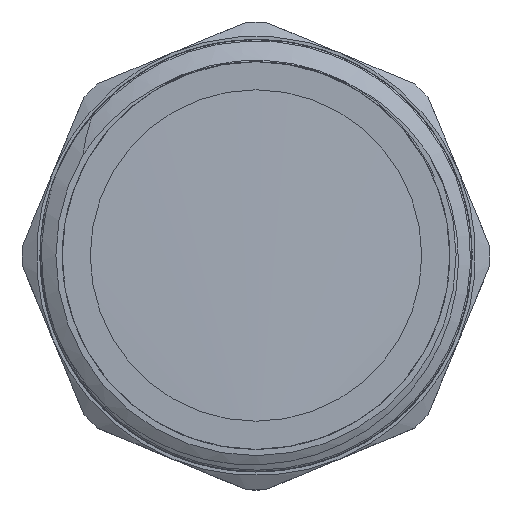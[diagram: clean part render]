
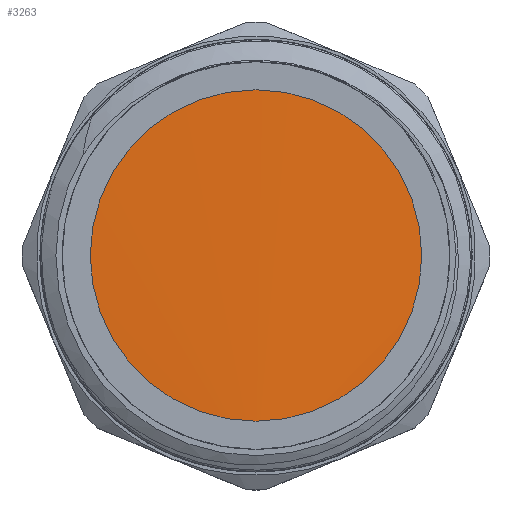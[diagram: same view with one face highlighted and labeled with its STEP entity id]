
A CAD part, top view. The second image highlights one B-rep face of the part: STEP entity #3263.
In plain terms, the highlighted cylindrical face has radius 16.625 mm (diameter 33.25 mm), a full revolution.
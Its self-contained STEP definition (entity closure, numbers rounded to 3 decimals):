
#166=B_SPLINE_CURVE_WITH_KNOTS('',3,(#6835,#6836,#6837,#6838,#6839,#6840,
#6841,#6842,#6843,#6844,#6845,#6846,#6847,#6848,#6849,#6850,#6851),
 .UNSPECIFIED.,.F.,.F.,(4,1,1,1,1,1,1,1,1,1,1,1,1,1,4),(18.85,
19.093,19.583,20.073,20.563,21.053,
21.542,22.032,22.522,23.012,23.502,
23.991,24.481,24.971,25.133),
 .UNSPECIFIED.);
#452=LINE('',#6616,#617);
#457=LINE('',#6834,#622);
#617=VECTOR('',#4327,16.625);
#622=VECTOR('',#4344,16.625);
#661=CYLINDRICAL_SURFACE('',#3587,16.625);
#837=FACE_OUTER_BOUND('',#1044,.T.);
#1044=EDGE_LOOP('',(#2988,#2989,#2990));
#1561=VERTEX_POINT('',#6614);
#1562=VERTEX_POINT('',#6615);
#1570=VERTEX_POINT('',#6833);
#2036=EDGE_CURVE('',#1561,#1562,#452,.T.);
#2049=EDGE_CURVE('',#1570,#1562,#457,.T.);
#2050=EDGE_CURVE('',#1570,#1561,#166,.T.);
#2988=ORIENTED_EDGE('',*,*,#2036,.T.);
#2989=ORIENTED_EDGE('',*,*,#2049,.F.);
#2990=ORIENTED_EDGE('',*,*,#2050,.T.);
#3263=ADVANCED_FACE('',(#837),#661,.T.);
#3587=AXIS2_PLACEMENT_3D('',#6832,#4342,#4343);
#4327=DIRECTION('',(0.,0.,1.));
#4342=DIRECTION('center_axis',(0.,0.,1.));
#4343=DIRECTION('ref_axis',(0.,1.,0.));
#4344=DIRECTION('',(0.,0.,-1.));
#6614=CARTESIAN_POINT('',(0.,-16.625,49.563));
#6615=CARTESIAN_POINT('',(0.,-16.625,51.855));
#6616=CARTESIAN_POINT('',(0.,-16.625,51.15));
#6832=CARTESIAN_POINT('Origin',(0.,0.,51.15));
#6833=CARTESIAN_POINT('',(0.,-16.625,51.874));
#6834=CARTESIAN_POINT('',(0.,-16.625,51.15));
#6835=CARTESIAN_POINT('Ctrl Pts',(0.,-16.624,
51.874));
#6836=CARTESIAN_POINT('Ctrl Pts',(-1.352,-16.624,51.845));
#6837=CARTESIAN_POINT('Ctrl Pts',(-5.419,-16.133,51.755));
#6838=CARTESIAN_POINT('Ctrl Pts',(-11.588,-12.852,51.605));
#6839=CARTESIAN_POINT('Ctrl Pts',(-16.271,-5.889,51.424));
#6840=CARTESIAN_POINT('Ctrl Pts',(-17.129,2.458,51.244));
#6841=CARTESIAN_POINT('Ctrl Pts',(-13.959,10.227,51.064));
#6842=CARTESIAN_POINT('Ctrl Pts',(-7.506,15.592,50.884));
#6843=CARTESIAN_POINT('Ctrl Pts',(0.711,17.29,50.704));
#6844=CARTESIAN_POINT('Ctrl Pts',(8.762,14.922,50.523));
#6845=CARTESIAN_POINT('Ctrl Pts',(14.752,9.046,50.343));
#6846=CARTESIAN_POINT('Ctrl Pts',(17.273,1.042,50.163));
#6847=CARTESIAN_POINT('Ctrl Pts',(15.733,-7.206,49.983));
#6848=CARTESIAN_POINT('Ctrl Pts',(10.493,-13.76,49.803));
#6849=CARTESIAN_POINT('Ctrl Pts',(4.507,-16.338,49.663));
#6850=CARTESIAN_POINT('Ctrl Pts',(0.896,-16.625,49.583));
#6851=CARTESIAN_POINT('Ctrl Pts',(0.,-16.624,
49.563));
